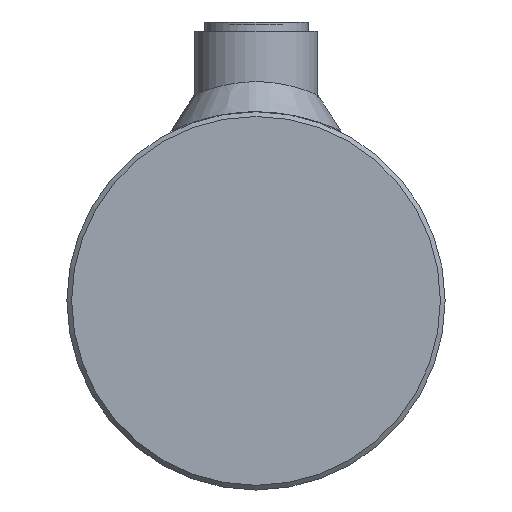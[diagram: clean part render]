
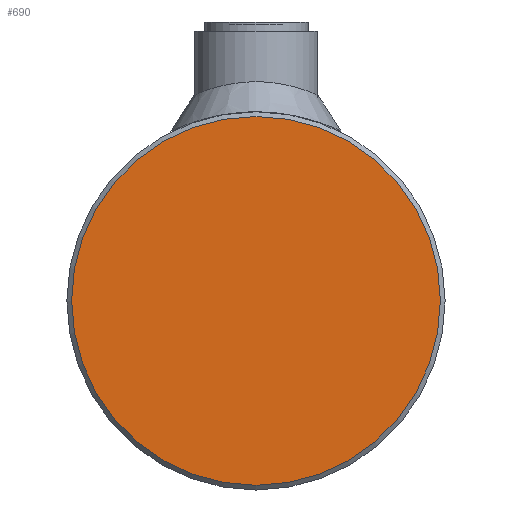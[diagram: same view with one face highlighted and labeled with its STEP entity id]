
A CAD part, left-side view. The second image highlights one B-rep face of the part: STEP entity #690.
In plain terms, the highlighted planar face has unit normal (-1, 0, 0).
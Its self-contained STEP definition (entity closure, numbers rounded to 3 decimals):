
#690 = ADVANCED_FACE( '', ( #1318 ), #1319, .T. );
#1318 = FACE_OUTER_BOUND( '', #3314, .T. );
#1319 = PLANE( '', #3315 );
#3314 = EDGE_LOOP( '', ( #5478 ) );
#3315 = AXIS2_PLACEMENT_3D( '', #5479, #5480, #5481 );
#5478 = ORIENTED_EDGE( '', *, *, #6139, .T. );
#5479 = CARTESIAN_POINT( '', ( -12., 0., 0. ) );
#5480 = DIRECTION( '', ( -1., 0., 0. ) );
#5481 = DIRECTION( '', ( 0., -1., 0. ) );
#6139 = EDGE_CURVE( '', #6738, #6738, #6739, .T. );
#6738 = VERTEX_POINT( '', #8153 );
#6739 = CIRCLE( '', #8154, 39. );
#8153 = CARTESIAN_POINT( '', ( -12., -39., 0. ) );
#8154 = AXIS2_PLACEMENT_3D( '', #8782, #8783, #8784 );
#8782 = CARTESIAN_POINT( '', ( -12., 0., 0. ) );
#8783 = DIRECTION( '', ( -1., 0., 0. ) );
#8784 = DIRECTION( '', ( 0., -1., 0. ) );
